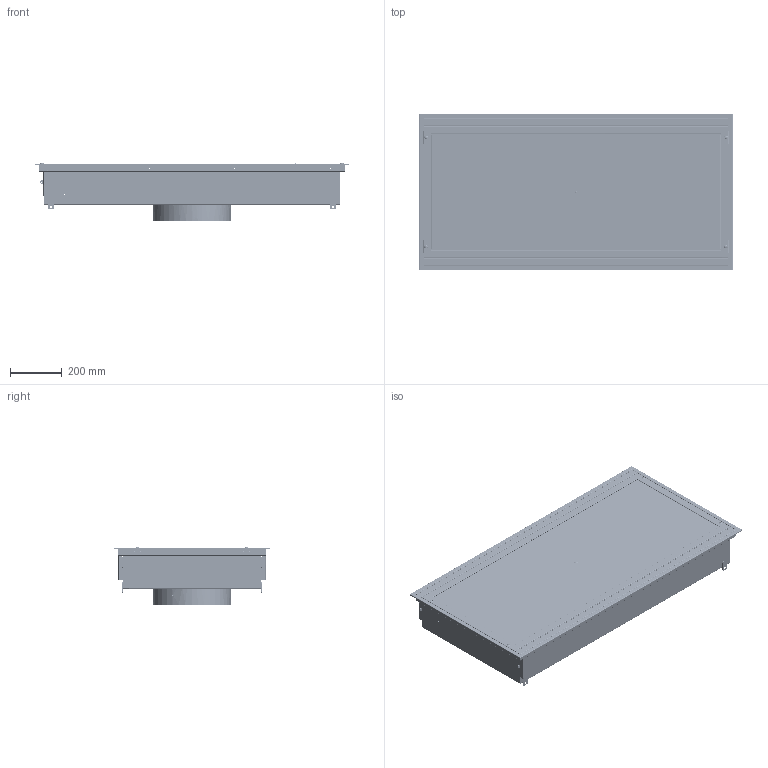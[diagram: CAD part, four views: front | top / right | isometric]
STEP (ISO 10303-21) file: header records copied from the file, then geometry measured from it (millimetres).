
FILE_DESCRIPTION (( 'STEP AP214' ), '1' );
FILE_NAME ('48 X 24_SSLF_LED.STEP', '2025-07-25T16:45:46', ( '' ), ( '' ), 'SwSTEP 2.0', 'SolidWorks 2024', '' );
FILE_SCHEMA (( 'AUTOMOTIVE_DESIGN' ));
Length unit declared in the file: inch
Products named in the file (57): 060525-LFs_FP1B20-A1_L01; 060525-LFs_H2E2_L01_WELD CLIP, BOB FRAME; 060525-LFs_H1T2_L01; 060525-LFs_H1B8_L01; 060525-LFs_P1B1B-SUB_L01; 060525-LFs_FC2B-A1_L01; 060525-LFs_H1E3_L01; 060525-LFs_H1D11_L01_91020A530; 060525-LFs_H1Z24_L01; 060525-LFs_H1F1_L01_1_4 TURN SPRING; 060525-LFs_H2E5_L01; 060525-LFs_X6BE_L01; 060525-LFs_BM5D_L01; 060525-LFs_P1B1B_L01; 060525-LFs_FC2B-A4_L01; 060525-LFs_SM2X3_L01; 060525-LFs_FP1B20-A2_L01; 060525-LFs_FC2B_L01; 060525-LFs_FACE-SUB_L01; 060525-LFs_H1V7_L01_WASHER, TEFLON: 0.50"OD x 0.25"ID x 0.025"th; 060525-LFs_X6B2_L01; 060525-LFs_FC2B-A2_L01; 060525-LFs_SAFETYCABLE-ASSY_L01; 060525-LFs_X6BA1_L01; 060525-LFs_H1M8_L01_H1M8; 060525-LFs_H1V20_L01; 060525-LFs_PLASTER-SUB_L01; 060525-LFs_H1T3_L01_GROMMET, BLADE; 060525-LFs_R2B1_L01; 060525-LFs_SM3X4_L01; 060525-LFs_H1B4_L01; 060525-LFs_X6BD_L01; 060525-LFs_Light Module-SUB_L01; 060525-LFs_FC2B-A3_L01; 060525-LFs_H1L1_L01; 060525-LFs_H1E2_L01; 060525-LFs_H1V10_L01_GROMMET - 0.387"ID; 1_2"HOLE; BLACK; 060525-LFs_R2B1-SUB_L01; 060525-LFs_SSRD_L01; 060525-LFs_R5Z11_L01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
Assembly tree (107 placements, depth 5):
  48 X 24_SSLF_LED
    060525-LFs_PLASTER-SUB_L01
      060525-LFs_FC2B_L01
        060525-LFs_FC2B-A1_L01
        060525-LFs_FC2B-A2_L01
        060525-LFs_FC2B-A3_L01
        060525-LFs_FC2B-A4_L01
        060525-LFs_H2E2_L01_WELD CLIP, BOB FRAME  x4
        060525-LFs_H2G12_L01  x4
        060525-LFs_H1F1_L01_1_4 TURN SPRING  x4
      060525-LFs_H1V20_L01  x2
      060525-LFs_X6BD_L01  x2
      060525-LFs_H1V10_L01_GROMMET - 0.387"ID; 1_2"HOLE; BLACK  x2
      060525-LFs_Light Module-SUB_L01  x2
        060525-LFs_X6BA1_L01
        060525-LFs_X6BB_L01
        060525-LFs_R5Z11_L01
        060525-LFs_H1M8_L01_H1M8
        060525-LFs_H1B9_L01
        060525-LFs_X6B2_L01
        060525-LFs_H1H40_L01
        060525-LFs_H1D11_L01_91020A530
    060525-LFs_FACE-SUB_L01
      060525-LFs_FP1B-SUB_L01
        060525-LFs_FP1B20-A1_L01
        060525-LFs_FP1B20-A2_L01
        060525-LFs_FP1B20-A3_L01
        060525-LFs_FP1B20-A4_L01
        060525-LFs_H2E1_L01_WELD CLIP; 40º BEVEL FRAME  x4
        060525-LFs_H1E1_L01  x4
        060525-LFs_H1E2_L01  x4
        060525-LFs_SAFETYCABLE-ASSY_L01  x2
          060525-LFs_H1N2_L01
          060525-LFs_H1E3_L01
        060525-LFs_H1Z24_L01
    060525-LFs_PERF-SUB_L01
      060525-LFs_H1T2_L01
      060525-LFs_R2B1-SUB_L01
        060525-LFs_R2B1_L01
    060525-LFs_PLENUM-SUB_L01
      060525-LFs_P1B1B-SUB_L01
        060525-LFs_P1B1B_L01
        060525-LFs_H2E5_L01  x4
        060525-LFs_X6BE_L01  x2
        060525-LFs_H1V20_L01  x2
    060525-LFs_C1C1C112_L01
    060525-LFs_SSRD_L01
      060525-LFs_H1L1_L01  x4
      060525-LFs_BM5D_L01  x2
      060525-LFs_SM2X3_L01
      060525-LFs_SM3X4_L01
      060525-LFs_H1A2_L01
      060525-LFs_H1B4_L01
      060525-LFs_H1V7_L01_WASHER, TEFLON: 0.50"OD x 0.25"ID x 0.025"th  x2
      060525-LFs_K2A2_L01  x2
      060525-LFs_H1T3_L01_GROMMET, BLADE  x2
      060525-LFs_K2A1_L01
      060525-LFs_H1B8_L01
Bounding box: 1212.85 x 603.25 x 223.61 mm (x, y, z)
Volume: 2304982.1 mm3; surface area: 5170672.9 mm2
Topology: 155 solids, 155 shells, 8244 faces, 20534 edges, 13095 vertices
Faces by surface type: plane 4721, cylinder 2024, cone 716, torus 532, bspline 233, sphere 18
Entity records: 119500 total; most frequent: CARTESIAN_POINT 31703, ORIENTED_EDGE 17800, DIRECTION 17219, EDGE_CURVE 8900, LINE 6215, VECTOR 6215, VERTEX_POINT 5716, AXIS2_PLACEMENT_3D 5502
